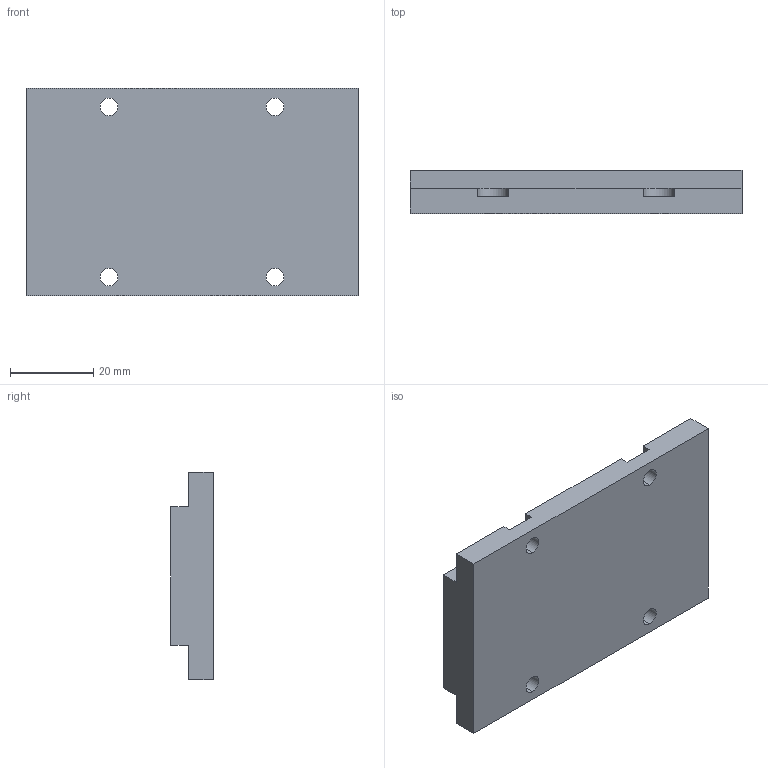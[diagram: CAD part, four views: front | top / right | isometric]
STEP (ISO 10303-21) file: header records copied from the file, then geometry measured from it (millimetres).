
FILE_DESCRIPTION (( 'STEP AP214' ), '1' );
FILE_NAME ('1-MJM030-L80.STEP', '2025-09-05T09:18:40', ( '' ), ( '' ), 'SwSTEP 2.0', 'SolidWorks 2016', '' );
FILE_SCHEMA (( 'AUTOMOTIVE_DESIGN' ));
Length unit declared in the file: millimetre
Products named in the file (1): 1-MJM030-L80
Bounding box: 80 x 10.3 x 50 mm (x, y, z)
Volume: 34810.5 mm3; surface area: 10741.5 mm2
Topology: 1 solids, 1 shells, 36 faces, 102 edges, 68 vertices
Faces by surface type: plane 22, cylinder 14
Entity records: 1224 total; most frequent: CARTESIAN_POINT 207, DIRECTION 204, ORIENTED_EDGE 204, EDGE_CURVE 102, VECTOR 74, LINE 74, VERTEX_POINT 68, AXIS2_PLACEMENT_3D 65
